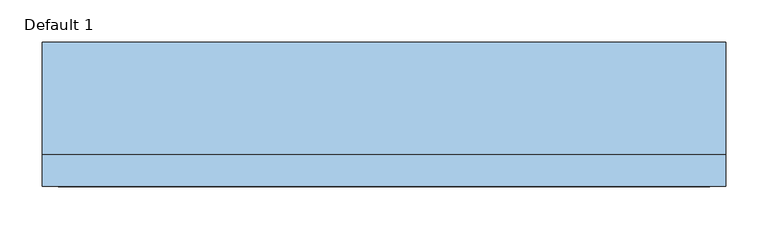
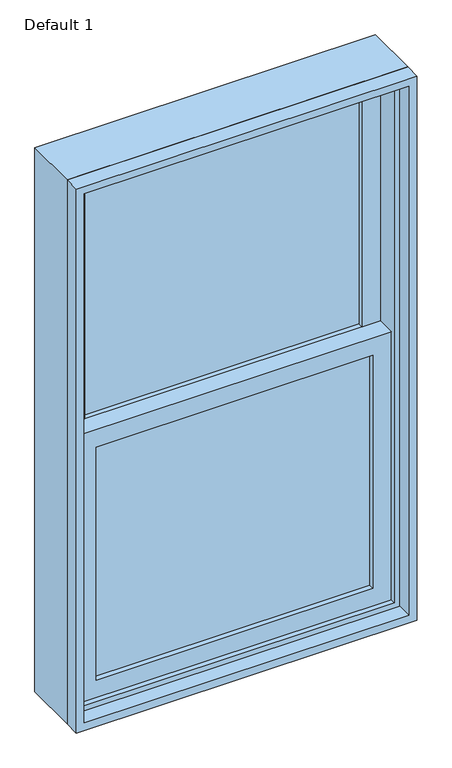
"""IFC4 building model written with IfcOpenShell, lengths in millimetres: window geometry, Planitar-Double-Hung-Single : Default 1."""

import ifcopenshell
import ifcopenshell.guid

model = None  # the IFC model being written
_history = None  # IfcOwnerHistory: only IFC2X3 demands one
_inside = {}  # id of a spatial element -> (the spatial element, [elements in it])
_under = {}  # id of a project, library or spatial element -> (it, [spatial elements below it])
_declared = {}  # id of a project -> (the project, [libraries it declares])
_typed = {}  # id of a type object -> (the type object, [elements of that type])
_made_of = {}  # id of a material, layer set ... -> (it, [elements and type objects made of it])


def new_model(schema):
    """Start an empty IFC model of exactly this schema.

    Asked for "IFC4X3", IfcOpenShell would pick the latest addendum, in which some entities
    have other attributes; the version numbers below select the first issue.
    IFC2X3 requires an IfcOwnerHistory on every rooted entity: one is made here for all.
    """
    global model, _history
    if schema == "IFC4X3":
        model = ifcopenshell.file(schema_version=(4, 3, 0, 0))
    else:
        model = ifcopenshell.file(schema=schema)
    _inside.clear()
    _under.clear()
    _declared.clear()
    _typed.clear()
    _made_of.clear()
    _history = None
    if model.schema == "IFC2X3":
        org = make("IfcOrganization", Name="unknown")
        user = make(
            "IfcPersonAndOrganization",
            ThePerson=make("IfcPerson", FamilyName="unknown"),
            TheOrganization=org,
        )
        app = make(
            "IfcApplication",
            ApplicationDeveloper=org,
            Version="unknown",
            ApplicationFullName="unknown",
            ApplicationIdentifier="unknown",
        )
        _history = make(
            "IfcOwnerHistory",
            OwningUser=user,
            OwningApplication=app,
            ChangeAction="ADDED",
            CreationDate=0,
        )
    return model


def make(cls, **values):
    """One entity of the class cls with the attributes given. An attribute that is None is left unset."""
    return model.create_entity(
        cls, **{name: value for name, value in values.items() if value is not None}
    )


def rooted(cls, **values):
    """An entity with a GlobalId (a new one), such as an element, a storey or a relation."""
    return make(cls, GlobalId=ifcopenshell.guid.new(), OwnerHistory=_history, **values)


def si_unit(unit_type, name, prefix=None):
    """IfcSIUnit, for example si_unit("LENGTHUNIT", "METRE", prefix="MILLI")."""
    return make("IfcSIUnit", UnitType=unit_type, Prefix=prefix, Name=name)


def assignment(units):
    """IfcUnitAssignment: the units of a project."""
    return None if units is None else make("IfcUnitAssignment", Units=units)


def point(xyz):
    """IfcCartesianPoint."""
    return None if xyz is None else make("IfcCartesianPoint", Coordinates=xyz)


def direction(xyz):
    """IfcDirection."""
    return None if xyz is None else make("IfcDirection", DirectionRatios=xyz)


def frame(location, z_axis=None, x_axis=None):
    """IfcAxis2Placement3D, a coordinate frame: its origin and axes. An axis left out is left unset."""
    return make(
        "IfcAxis2Placement3D",
        Location=point(location),
        Axis=direction(z_axis),
        RefDirection=direction(x_axis),
    )


def origin():
    """The frame at (0, 0, 0) with its axes left unset."""
    return frame((0.0, 0.0, 0.0))


def place(relative_to, where):
    """IfcLocalPlacement: puts the frame where relative to a parent placement (None: the world)."""
    return make(
        "IfcLocalPlacement", PlacementRelTo=relative_to, RelativePlacement=where
    )


def context(
    kind, dimensions, precision=None, world=None, true_north=None, identifier=None
):
    """IfcGeometricRepresentationContext, for example the 3D "Model" context."""
    return make(
        "IfcGeometricRepresentationContext",
        ContextIdentifier=identifier,
        ContextType=kind,
        CoordinateSpaceDimension=dimensions,
        Precision=precision,
        WorldCoordinateSystem=world,
        TrueNorth=true_north,
    )


def project(units=None, contexts=None):
    """IfcProject with its units and contexts."""
    return rooted(
        "IfcProject",
        Name="project",
        RepresentationContexts=contexts,
        UnitsInContext=assignment(units),
    )


def spatial(cls, under=None, at=None, **own):
    """A site, building, storey or space (cls), placed at a placement, below another one or the project."""
    s = rooted(cls, ObjectPlacement=at, **own)
    if under is not None:
        _under.setdefault(under.id(), (under, []))[1].append(s)
    return s


def polyline(points):
    """IfcPolyline through the points."""
    return make("IfcPolyline", Points=[point(p) for p in points])


def outline(outer, holes=None, kind="AREA"):
    """IfcArbitraryClosedProfileDef: a profile drawn as a closed curve; with holes, ...WithVoids."""
    if holes is None:
        return make("IfcArbitraryClosedProfileDef", ProfileType=kind, OuterCurve=outer)
    return make(
        "IfcArbitraryProfileDefWithVoids",
        ProfileType=kind,
        OuterCurve=outer,
        InnerCurves=holes,
    )


def extrude(swept, where, along, depth):
    """IfcExtrudedAreaSolid: the profile swept, set in the frame where, extruded along a direction by depth."""
    return make(
        "IfcExtrudedAreaSolid",
        SweptArea=swept,
        Position=where,
        ExtrudedDirection=direction(along),
        Depth=depth,
    )


def shape(context_of_items, identifier, shape_type, items):
    """IfcShapeRepresentation: the items that make up one representation, for example the "Body"."""
    return make(
        "IfcShapeRepresentation",
        ContextOfItems=context_of_items,
        RepresentationIdentifier=identifier,
        RepresentationType=shape_type,
        Items=items,
    )


def source(mapping_origin, context_of_items, identifier, shape_type, items):
    """IfcRepresentationMap: a shape defined once, which mapped items show again and again."""
    return make(
        "IfcRepresentationMap",
        MappingOrigin=mapping_origin,
        MappedRepresentation=shape(context_of_items, identifier, shape_type, items),
    )


def transform(
    local_origin,
    x_axis=None,
    y_axis=None,
    z_axis=None,
    scale=None,
    scale2=None,
    scale3=None,
    uniform=True,
):
    """IfcCartesianTransformationOperator3D, or its non-uniform kind. x_axis, y_axis, z_axis: its Axis1, 2, 3."""
    if uniform:
        return make(
            "IfcCartesianTransformationOperator3D",
            Axis1=direction(x_axis),
            Axis2=direction(y_axis),
            LocalOrigin=point(local_origin),
            Scale=scale,
            Axis3=direction(z_axis),
        )
    return make(
        "IfcCartesianTransformationOperator3DnonUniform",
        Axis1=direction(x_axis),
        Axis2=direction(y_axis),
        LocalOrigin=point(local_origin),
        Scale=scale,
        Axis3=direction(z_axis),
        Scale2=scale2,
        Scale3=scale3,
    )


def mapped(mapping_source, mapping_target):
    """IfcMappedItem: shows the shape of a source again, moved by a transform."""
    return make(
        "IfcMappedItem", MappingSource=mapping_source, MappingTarget=mapping_target
    )


def made_of(thing, what):
    """Note that an element or type object is made of a material, layer set ...; save() writes the relation."""
    if what is not None:
        _made_of.setdefault(what.id(), (what, []))[1].append(thing)
    return thing


def element(
    cls,
    number,
    at=None,
    inside=None,
    cuts=None,
    type_object=None,
    material=None,
    context=None,
    identifier="Body",
    shape_type=None,
    held_by="IfcProductDefinitionShape",
    body=None,
    shapes=None,
    **own,
):
    """One element of the class cls, such as IfcWall. Its Tag is "e" and its number.

    at: its placement. inside: the storey or other place that contains it. cuts: it is an
    opening in that element (IfcRelVoidsElement). A single representation is given by context,
    identifier, shape_type and body (its items); several are given by shapes. held_by: the class
    of the entity that holds the representations. save() writes the other relations.
    """
    e = rooted(cls, Tag="e%d" % number, ObjectPlacement=at, **own)
    if body is not None:
        shapes = [shape(context, identifier, shape_type, body)]
    if shapes is not None:
        e.Representation = make(held_by, Representations=shapes)
    if inside is not None:
        _inside.setdefault(inside.id(), (inside, []))[1].append(e)
    if cuts is not None:
        rooted(
            "IfcRelVoidsElement", RelatingBuildingElement=cuts, RelatedOpeningElement=e
        )
    if type_object is not None:
        _typed.setdefault(type_object.id(), (type_object, []))[1].append(e)
    return made_of(e, material)


def aggregate(whole, parts):
    """IfcRelAggregates: a whole, such as a stair, and the parts it consists of."""
    return rooted("IfcRelAggregates", RelatingObject=whole, RelatedObjects=parts)


def save(model, path):
    """Write the relations noted so far, then the file.

    IfcRelAggregates (storeys below a building ...), IfcRelContainedInSpatialStructure (elements
    in a storey), IfcRelDefinesByType, IfcRelAssociatesMaterial and IfcRelDeclares: one each for
    every whole, place, type object, material and project.
    """
    for whole, parts in _under.values():
        aggregate(whole, parts)
    for where, things in _inside.values():
        rooted(
            "IfcRelContainedInSpatialStructure",
            RelatedElements=things,
            RelatingStructure=where,
        )
    for kind, things in _typed.values():
        rooted("IfcRelDefinesByType", RelatedObjects=things, RelatingType=kind)
    for what, things in _made_of.values():
        rooted("IfcRelAssociatesMaterial", RelatedObjects=things, RelatingMaterial=what)
    for by, libraries in _declared.values():
        rooted("IfcRelDeclares", RelatingContext=by, RelatedDefinitions=libraries)
    model.write(path)


def default_1_0ffe8a1d(model_context):
    return source(origin(), model_context, "Body", "SweptSolid", [
        extrude(outline(polyline([(330.2, 6.35), (330.2, 0.0), (-330.2, 0.0), (-330.2, 6.35), (330.2, 6.35)])), frame((0.0, 0.0, 990.6), z_axis=(0.0, 0.0, 1.0), x_axis=(1.0, 0.0, 0.0)), (0.0, 0.0, 1.0), 587.375),
        extrude(outline(polyline([(-330.2, -6.35), (330.2, -6.35), (330.2, -12.7), (-330.2, -12.7), (-330.2, -6.35)])), frame((0.0, 0.0, 990.6), z_axis=(0.0, 0.0, 1.0), x_axis=(1.0, 0.0, 0.0)), (0.0, 0.0, 1.0), 587.375),
        extrude(outline(polyline([(330.2, 50.8), (330.2, 44.45), (-330.2, 44.45), (-330.2, 50.8), (330.2, 50.8)])), frame((0.0, 0.0, 1622.425), z_axis=(0.0, 0.0, 1.0), x_axis=(1.0, 0.0, 0.0)), (0.0, 0.0, 1.0), 587.375),
        extrude(outline(polyline([(-330.2, 38.1), (330.2, 38.1), (330.2, 31.75), (-330.2, 31.75), (-330.2, 38.1)])), frame((0.0, 0.0, 1622.425), z_axis=(0.0, 0.0, 1.0), x_axis=(1.0, 0.0, 0.0)), (0.0, 0.0, 1.0), 587.375),
        extrude(outline(polyline([(1622.425, -374.65), (946.15, -374.65), (946.15, 374.65), (1622.425, 374.65), (1622.425, -374.65)]), holes=[polyline([(1577.975, 330.2), (990.6, 330.2), (990.6, -330.2), (1577.975, -330.2), (1577.975, 330.2)])]), frame((0.0, -25.4, 0.0), z_axis=(0.0, 1.0, 0.0), x_axis=(0.0, 0.0, 1.0)), (0.0, 0.0, 1.0), 44.45),
        extrude(outline(polyline([(2254.25, -374.65), (1577.975, -374.65), (1577.975, 374.65), (2254.25, 374.65), (2254.25, -374.65)]), holes=[polyline([(2209.8, 330.2), (1622.425, 330.2), (1622.425, -330.2), (2209.8, -330.2), (2209.8, 330.2)])]), frame((0.0, 19.05, 0.0), z_axis=(0.0, 1.0, 0.0), x_axis=(0.0, 0.0, 1.0)), (0.0, 0.0, 1.0), 44.45),
        extrude(outline(polyline([(2286.0, -406.4), (914.4, -406.4), (914.4, 406.4), (2286.0, 406.4), (2286.0, -406.4)]), holes=[polyline([(2254.25, 374.65), (946.15, 374.65), (946.15, -374.65), (2254.25, -374.65), (2254.25, 374.65)])]), frame((0.0, -38.1, 0.0), z_axis=(0.0, 1.0, 0.0), x_axis=(0.0, 0.0, 1.0)), (0.0, 0.0, 1.0), 133.35),
        extrude(outline(polyline([(2286.0, 406.4), (2286.0, -406.4), (914.4, -406.4), (914.4, 406.4), (2286.0, 406.4)]), holes=[polyline([(2266.95, 387.35), (933.45, 387.35), (933.45, -387.35), (2266.95, -387.35), (2266.95, 387.35)])]), frame((0.0, -76.2, 0.0), z_axis=(0.0, 1.0, 0.0), x_axis=(0.0, 0.0, 1.0)), (0.0, 0.0, 1.0), 38.1),
    ])


if __name__ == "__main__":
    model = new_model("IFC4")
    model_context = context("Model", 3, world=origin())
    ifc_project = project(units=[si_unit("LENGTHUNIT", "METRE", prefix="MILLI")], contexts=[model_context])
    site = spatial("IfcSite", under=ifc_project)
    building = spatial("IfcBuilding", under=site)
    placement = place(None, origin())
    default_1_shape = default_1_0ffe8a1d(model_context)
    element("IfcWindow", 1, ObjectType="Planitar-Double-Hung-Single : Default 1", at=placement, inside=building, context=model_context, shape_type="MappedRepresentation", body=[
        mapped(default_1_shape, transform((0.0, 0.0, 0.0), x_axis=(1.0, 0.0, 0.0), y_axis=(0.0, 1.0, 0.0), z_axis=(0.0, 0.0, 1.0))),
    ])
    save(model, "model.ifc")
